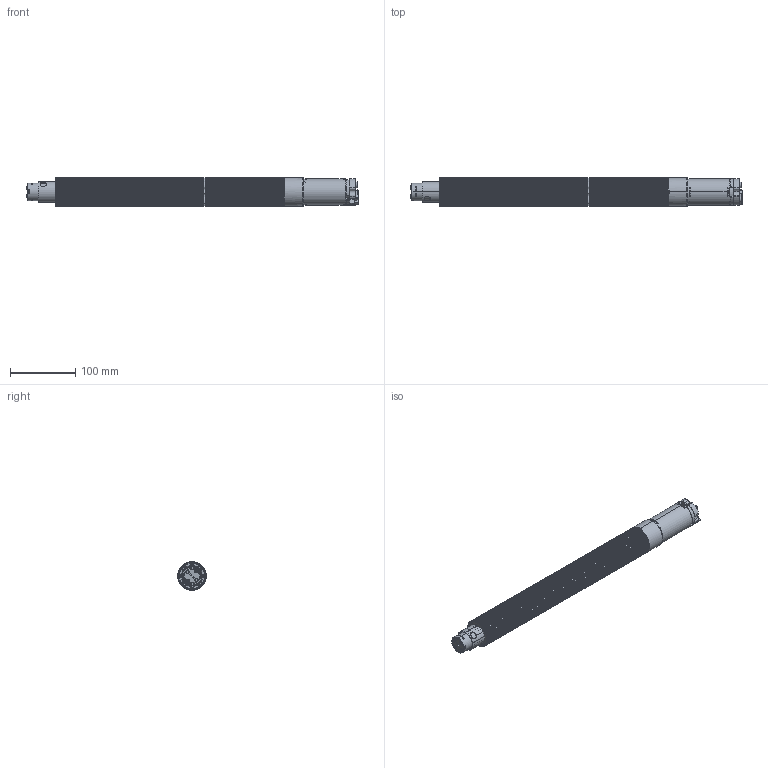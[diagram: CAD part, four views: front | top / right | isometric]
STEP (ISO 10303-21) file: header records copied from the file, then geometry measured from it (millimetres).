
FILE_DESCRIPTION (( 'STEP AP203' ), '1' );
FILE_NAME ('TA20.STEP', '2019-08-02T11:05:24', ( '' ), ( '' ), 'SwSTEP 2.0', 'SolidWorks 2015', '' );
FILE_SCHEMA (( 'CONFIG_CONTROL_DESIGN' ));
Products named in the file (1): TA20
Bounding box: 510.6 x 44 x 44 mm (x, y, z)
Volume: 221570.5 mm3; surface area: 291519.9 mm2
Topology: 12 solids, 13 shells, 4914 faces, 13128 edges, 8139 vertices
Faces by surface type: cylinder 2016, torus 1218, plane 661, bspline 464, cone 448, sphere 107
Entity records: 178851 total; most frequent: CARTESIAN_POINT 61783, ORIENTED_EDGE 25982, DIRECTION 23903, EDGE_CURVE 12991, AXIS2_PLACEMENT_3D 10128, VERTEX_POINT 8100, CIRCLE 5683, EDGE_LOOP 4977
